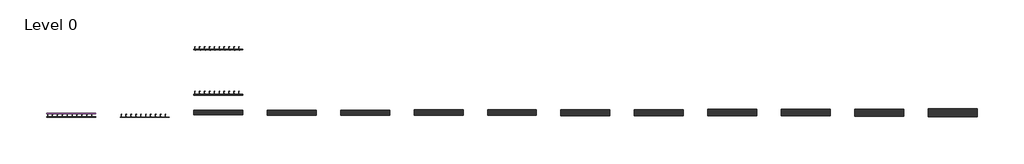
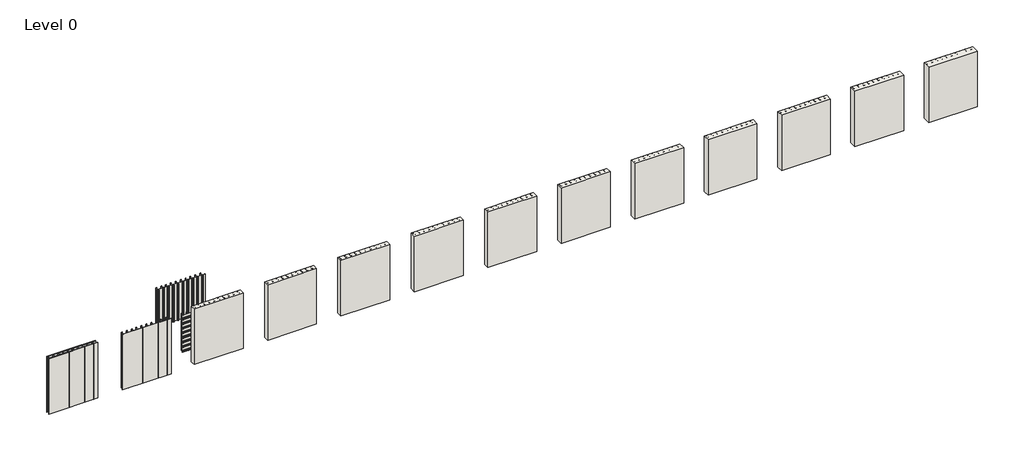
# One storey, incomplete: 17 fasteners, 15 walls, 4 plates.
"""IFC4 building model written with IfcOpenShell, lengths in millimetres."""

from ifc_helpers import new_model, si_unit, origin, origin_with_axes, place, context, project, spatial, polyline, outline, extrude, transform, mapped, element, save
from components import fastener_f7e8d427, fastener_a8222be2, fastener_300b955e, fastener_bb8683ab, fastener_929703bf, fastener_0e16a299, fastener_dfe876d4, metal_stud_substrate_e28d9b51, metal_stud_substrate_c954c151, system_panel_glazed_ae204111

model = new_model("IFC4")

# Units and contexts
model_context = context("Model", 3, world=origin())
ifc_project = project(units=[si_unit("LENGTHUNIT", "METRE", prefix="MILLI")], contexts=[model_context])

# Site, building, storey
site = spatial("IfcSite", under=ifc_project)
building = spatial("IfcBuilding", under=site)
storey = spatial("IfcBuildingStorey", under=building, Name="Level 0", Elevation=0.0)

# Fasteners
placement = place(None, origin())
fastener_shape = fastener_f7e8d427(model_context)
fastener_2_shape = fastener_a8222be2(model_context)
fastener_3_shape = fastener_300b955e(model_context)
element("IfcFastener", 1, ObjectType="Structural-Supporting-Components_Advanced-Architectural-Products_SMARTci_(On Closed Framing) : SMARTci (On Closed Framing) 1.5\"", at=placement, inside=storey, context=model_context, shape_type="MappedRepresentation", body=[
    mapped(fastener_shape, transform((-9509.3679784, 8221.4086599, 0.0), x_axis=(1.0, 0.0, 0.0), y_axis=(0.0, 1.0, 0.0), z_axis=(0.0, 0.0, 1.0))),
    mapped(fastener_2_shape, transform((-9509.3679784, 8221.4086599, 0.0), x_axis=(1.0, 0.0, 0.0), y_axis=(0.0, 1.0, 0.0), z_axis=(0.0, 0.0, 1.0))),
    mapped(fastener_3_shape, transform((-9509.3679784, 8221.4086599, 0.0), x_axis=(1.0, 0.0, 0.0), y_axis=(0.0, 1.0, 0.0), z_axis=(0.0, 0.0, 1.0))),
])
fastener_4_shape = fastener_bb8683ab(model_context)
fastener_5_shape = fastener_929703bf(model_context)
fastener_6_shape = fastener_0e16a299(model_context)
fastener_7_shape = fastener_dfe876d4(model_context)
element("IfcFastener", 2, ObjectType="Structural-Supporting-Components_Advanced-Architectural-Products_SMARTci_(On Closed Framing) : SMARTci (On Closed Framing) 1.5\"", at=placement, inside=storey, context=model_context, shape_type="MappedRepresentation", body=[
    mapped(fastener_4_shape, transform((-9509.3679784, 10532.8086599, 0.0), x_axis=(1.0, 0.0, 0.0), y_axis=(0.0, 1.0, 0.0), z_axis=(0.0, 0.0, 1.0))),
    mapped(fastener_5_shape, transform((-9509.3679784, 10532.8086599, 0.0), x_axis=(1.0, 0.0, 0.0), y_axis=(0.0, 1.0, 0.0), z_axis=(0.0, 0.0, 1.0))),
    mapped(fastener_6_shape, transform((-9509.3679784, 10532.8086599, 0.0), x_axis=(1.0, 0.0, 0.0), y_axis=(0.0, 1.0, 0.0), z_axis=(0.0, 0.0, 1.0))),
    mapped(fastener_7_shape, transform((-9509.3679784, 10532.8086599, 0.0), x_axis=(1.0, 0.0, 0.0), y_axis=(0.0, 1.0, 0.0), z_axis=(0.0, 0.0, 1.0))),
])
metal_stud_substrate_shape = metal_stud_substrate_e28d9b51(model_context)
element("IfcFastener", 3, ObjectType="Structural-Supporting-Components_Advanced-Architectural-Products_Metal-Stud-Substrate : Metal Stud Substrate", at=placement, inside=storey, context=model_context, shape_type="MappedRepresentation", body=[
    mapped(metal_stud_substrate_shape, transform((-9509.3679784, 7372.8836599, 0.0), x_axis=(1.0, 0.0, 0.0), y_axis=(0.0, 1.0, 0.0), z_axis=(0.0, 0.0, 1.0))),
])
element("IfcFastener", 4, ObjectType="Structural-Supporting-Components_Advanced-Architectural-Products_Metal-Stud-Substrate : Metal Stud Substrate", at=placement, inside=storey, context=model_context, shape_type="MappedRepresentation", body=[
    mapped(metal_stud_substrate_shape, transform((-5699.3679784, 7379.2336599, 0.0), x_axis=(1.0, 0.0, 0.0), y_axis=(0.0, 1.0, 0.0), z_axis=(0.0, 0.0, 1.0))),
])
element("IfcFastener", 5, ObjectType="Structural-Supporting-Components_Advanced-Architectural-Products_Metal-Stud-Substrate : Metal Stud Substrate", at=placement, inside=storey, context=model_context, shape_type="MappedRepresentation", body=[
    mapped(metal_stud_substrate_shape, transform((-1889.3679784, 7385.5836599, 0.0), x_axis=(1.0, 0.0, 0.0), y_axis=(0.0, 1.0, 0.0), z_axis=(0.0, 0.0, 1.0))),
])
element("IfcFastener", 6, ObjectType="Structural-Supporting-Components_Advanced-Architectural-Products_Metal-Stud-Substrate : Metal Stud Substrate", at=placement, inside=storey, context=model_context, shape_type="MappedRepresentation", body=[
    mapped(metal_stud_substrate_shape, transform((1920.6320216, 7391.9336599, 0.0), x_axis=(1.0, 0.0, 0.0), y_axis=(0.0, 1.0, 0.0), z_axis=(0.0, 0.0, 1.0))),
])
element("IfcFastener", 7, ObjectType="Structural-Supporting-Components_Advanced-Architectural-Products_Metal-Stud-Substrate : Metal Stud Substrate", at=placement, inside=storey, context=model_context, shape_type="MappedRepresentation", body=[
    mapped(metal_stud_substrate_shape, transform((5730.6320216, 7398.2836599, 0.0), x_axis=(1.0, 0.0, 0.0), y_axis=(0.0, 1.0, 0.0), z_axis=(0.0, 0.0, 1.0))),
])
element("IfcFastener", 8, ObjectType="Structural-Supporting-Components_Advanced-Architectural-Products_Metal-Stud-Substrate : Metal Stud Substrate", at=placement, inside=storey, context=model_context, shape_type="MappedRepresentation", body=[
    mapped(metal_stud_substrate_shape, transform((9540.6320216, 7404.6336599, 0.0), x_axis=(1.0, 0.0, 0.0), y_axis=(0.0, 1.0, 0.0), z_axis=(0.0, 0.0, 1.0))),
])
element("IfcFastener", 9, ObjectType="Structural-Supporting-Components_Advanced-Architectural-Products_Metal-Stud-Substrate : Metal Stud Substrate", at=placement, inside=storey, context=model_context, shape_type="MappedRepresentation", body=[
    mapped(metal_stud_substrate_shape, transform((13350.6320216, 7410.9836599, 0.0), x_axis=(1.0, 0.0, 0.0), y_axis=(0.0, 1.0, 0.0), z_axis=(0.0, 0.0, 1.0))),
])
element("IfcFastener", 10, ObjectType="Structural-Supporting-Components_Advanced-Architectural-Products_Metal-Stud-Substrate : Metal Stud Substrate", at=placement, inside=storey, context=model_context, shape_type="MappedRepresentation", body=[
    mapped(metal_stud_substrate_shape, transform((17160.6320216, 7417.3336599, 0.0), x_axis=(1.0, 0.0, 0.0), y_axis=(0.0, 1.0, 0.0), z_axis=(0.0, 0.0, 1.0))),
])
element("IfcFastener", 11, ObjectType="Structural-Supporting-Components_Advanced-Architectural-Products_Metal-Stud-Substrate : Metal Stud Substrate", at=placement, inside=storey, context=model_context, shape_type="MappedRepresentation", body=[
    mapped(metal_stud_substrate_shape, transform((20970.6320216, 7423.6836599, 0.0), x_axis=(1.0, 0.0, 0.0), y_axis=(0.0, 1.0, 0.0), z_axis=(0.0, 0.0, 1.0))),
])
element("IfcFastener", 12, ObjectType="Structural-Supporting-Components_Advanced-Architectural-Products_Metal-Stud-Substrate : Metal Stud Substrate", at=placement, inside=storey, context=model_context, shape_type="MappedRepresentation", body=[
    mapped(metal_stud_substrate_shape, transform((24780.6320216, 7430.0336599, 0.0), x_axis=(1.0, 0.0, 0.0), y_axis=(0.0, 1.0, 0.0), z_axis=(0.0, 0.0, 1.0))),
])
element("IfcFastener", 13, ObjectType="Structural-Supporting-Components_Advanced-Architectural-Products_Metal-Stud-Substrate : Metal Stud Substrate", at=placement, inside=storey, context=model_context, shape_type="MappedRepresentation", body=[
    mapped(metal_stud_substrate_shape, transform((28590.6320216, 7455.4336599, 0.0), x_axis=(1.0, 0.0, 0.0), y_axis=(0.0, 1.0, 0.0), z_axis=(0.0, 0.0, 1.0))),
])
element("IfcFastener", 14, ObjectType="Structural-Supporting-Components_Advanced-Architectural-Products_Metal-Stud-Substrate : Metal Stud Substrate", at=placement, inside=storey, context=model_context, shape_type="MappedRepresentation", body=[
    mapped(metal_stud_substrate_shape, transform((-13319.3679784, 7196.0836599, 0.0), x_axis=(1.0, 0.0, 0.0), y_axis=(0.0, 1.0, 0.0), z_axis=(0.0, 0.0, 1.0))),
])
element("IfcFastener", 15, ObjectType="Structural-Supporting-Components_Advanced-Architectural-Products_Metal-Stud-Substrate : Metal Stud Substrate", at=placement, inside=storey, context=model_context, shape_type="MappedRepresentation", body=[
    mapped(metal_stud_substrate_shape, transform((-17129.2493423, 7209.5836599, 0.0), x_axis=(1.0, 0.0, 0.0), y_axis=(0.0, 1.0, 0.0), z_axis=(0.0, 0.0, 1.0))),
])
metal_stud_substrate_2_shape = metal_stud_substrate_c954c151(model_context)
element("IfcFastener", 16, ObjectType="Structural-Supporting-Components_Advanced-Architectural-Products_Metal-Stud-Substrate : Metal Stud Substrate", at=placement, inside=storey, context=model_context, shape_type="MappedRepresentation", body=[
    mapped(metal_stud_substrate_2_shape, transform((-9509.3679784, 8389.6836599, 0.0), x_axis=(1.0, 0.0, 0.0), y_axis=(0.0, 1.0, 0.0), z_axis=(0.0, 0.0, 1.0))),
])
element("IfcFastener", 17, ObjectType="Structural-Supporting-Components_Advanced-Architectural-Products_Metal-Stud-Substrate : Metal Stud Substrate", at=placement, inside=storey, context=model_context, shape_type="MappedRepresentation", body=[
    mapped(metal_stud_substrate_2_shape, transform((-9509.3679784, 10701.0836599, 0.0), x_axis=(1.0, 0.0, 0.0), y_axis=(0.0, 1.0, 0.0), z_axis=(0.0, 0.0, 1.0))),
])

# Plates
system_panel_glazed_shape = system_panel_glazed_ae204111(model_context)
element("IfcPlate", 18, ObjectType="System Panel : Glazed", at=placement, inside=storey, context=model_context, shape_type="MappedRepresentation", body=[
    mapped(system_panel_glazed_shape, transform((-16494.2493421, 7259.0836599, 0.0), x_axis=(1.0, 0.0, 0.0), y_axis=(0.0, 1.0, 0.0), z_axis=(0.0, 0.0, 1.0))),
])
element("IfcPlate", 19, ObjectType="System Panel : Glazed", at=placement, inside=storey, context=model_context, shape_type="MappedRepresentation", body=[
    mapped(system_panel_glazed_shape, transform((-15224.2493421, 7259.0836599, 0.0), x_axis=(1.0, 0.0, 0.0), y_axis=(0.0, 1.0, 0.0), z_axis=(0.0, 0.0, 1.0))),
])
element("IfcPlate", 20, ObjectType="System Panel : Glazed", at=placement, inside=storey, context=model_context, shape_type="MappedRepresentation", body=[
    mapped(system_panel_glazed_shape, transform((-16494.2493421, 7259.0836599, 1524.0), x_axis=(1.0, 0.0, 0.0), y_axis=(0.0, 1.0, 0.0), z_axis=(0.0, 0.0, 1.0))),
])
element("IfcPlate", 21, ObjectType="System Panel : Glazed", at=placement, inside=storey, context=model_context, shape_type="MappedRepresentation", body=[
    mapped(system_panel_glazed_shape, transform((-15224.2493421, 7259.0836599, 1524.0), x_axis=(1.0, 0.0, 0.0), y_axis=(0.0, 1.0, 0.0), z_axis=(0.0, 0.0, 1.0))),
])

# Walls
element("IfcWall", 22, ObjectType="AAP Basic Wall-Ext", at=placement, inside=storey, context=model_context, shape_type="SweptSolid", body=[
    extrude(outline(polyline([(-10779.3679784, 7027.8086599), (-13319.3679784, 7027.8086599), (-13319.3679784, 7043.6836599), (-10779.3679784, 7043.6836599), (-10779.3679784, 7027.8086599)])), origin_with_axes(), (0.0, 0.0, 1.0), 3048.0),
])
element("IfcWall", 23, ObjectType="AAP Basic Wall-Ext", at=placement, inside=storey, context=model_context, shape_type="SweptSolid", body=[
    extrude(outline(polyline([(-6969.3679784, 8221.4086599), (-9509.3679784, 8221.4086599), (-9509.3679784, 8237.2836599), (-6969.3679784, 8237.2836599), (-6969.3679784, 8221.4086599)])), origin_with_axes(), (0.0, 0.0, 1.0), 2032.0),
])
element("IfcWall", 24, ObjectType="AAP Basic Wall-Ext", at=placement, inside=storey, context=model_context, shape_type="SweptSolid", body=[
    extrude(outline(polyline([(-6969.3679784, 10532.8086599), (-9509.3679784, 10532.8086599), (-9509.3679784, 10548.6836599), (-6969.3679784, 10548.6836599), (-6969.3679784, 10532.8086599)])), origin_with_axes(), (0.0, 0.0, 1.0), 2032.0),
])
element("IfcWall", 25, ObjectType="AAP Basic Wall-Ext", at=placement, inside=storey, context=model_context, shape_type="SweptSolid", body=[
    extrude(outline(polyline([(-14589.2493423, 7041.3086599), (-17129.2493423, 7041.3086599), (-17129.2493423, 7057.1836599), (-14589.2493423, 7057.1836599), (-14589.2493423, 7041.3086599)])), origin_with_axes(), (0.0, 0.0, 1.0), 3048.0),
])
element("IfcWall", 26, ObjectType="AAP Wall-Ext_1.5\" Fiberglass Batt, Air", at=placement, inside=storey, context=model_context, shape_type="SweptSolid", body=[
    extrude(outline(polyline([(-6969.3679784, 7154.0086599), (-9509.3679784, 7154.0086599), (-9509.3679784, 7398.2836599), (-6969.3679784, 7398.2836599), (-6969.3679784, 7154.0086599)])), origin_with_axes(), (0.0, 0.0, 1.0), 3048.0),
])
element("IfcWall", 27, ObjectType="AAP Wall-Ext_2.0\" Fiberglass Batt, Air", at=placement, inside=storey, context=model_context, shape_type="SweptSolid", body=[
    extrude(outline(polyline([(-3159.3679784, 7147.6586599), (-5699.3679784, 7147.6586599), (-5699.3679784, 7404.6336599), (-3159.3679784, 7404.6336599), (-3159.3679784, 7147.6586599)])), origin_with_axes(), (0.0, 0.0, 1.0), 3048.0),
])
element("IfcWall", 28, ObjectType="AAP Wall-Ext_2.5\" Fiberglass Batt, Air", at=placement, inside=storey, context=model_context, shape_type="SweptSolid", body=[
    extrude(outline(polyline([(650.6320216, 7141.3086599), (-1889.3679784, 7141.3086599), (-1889.3679784, 7410.9836599), (650.6320216, 7410.9836599), (650.6320216, 7141.3086599)])), origin_with_axes(), (0.0, 0.0, 1.0), 3048.0),
])
element("IfcWall", 29, ObjectType="AAP Wall-Ext_3.0\" Fiberglass Batt, Air", at=placement, inside=storey, context=model_context, shape_type="SweptSolid", body=[
    extrude(outline(polyline([(4460.6320216, 7134.9586599), (1920.6320216, 7134.9586599), (1920.6320216, 7417.3336599), (4460.6320216, 7417.3336599), (4460.6320216, 7134.9586599)])), origin_with_axes(), (0.0, 0.0, 1.0), 3048.0),
])
element("IfcWall", 30, ObjectType="AAP Wall-Ext_3.5\" Fiberglass Batt, Air", at=placement, inside=storey, context=model_context, shape_type="SweptSolid", body=[
    extrude(outline(polyline([(8270.6320216, 7128.6086599), (5730.6320216, 7128.6086599), (5730.6320216, 7423.6836599), (8270.6320216, 7423.6836599), (8270.6320216, 7128.6086599)])), origin_with_axes(), (0.0, 0.0, 1.0), 3048.0),
])
element("IfcWall", 31, ObjectType="AAP Wall-Ext_4.0\" Fiberglass Batt, Air", at=placement, inside=storey, context=model_context, shape_type="SweptSolid", body=[
    extrude(outline(polyline([(12080.6320216, 7122.2586599), (9540.6320216, 7122.2586599), (9540.6320216, 7430.0336599), (12080.6320216, 7430.0336599), (12080.6320216, 7122.2586599)])), origin_with_axes(), (0.0, 0.0, 1.0), 3048.0),
])
element("IfcWall", 32, ObjectType="AAP Wall-Ext_4.5\" Fiberglass Batt, Air", at=placement, inside=storey, context=model_context, shape_type="SweptSolid", body=[
    extrude(outline(polyline([(15890.6320216, 7115.9086599), (13350.6320216, 7115.9086599), (13350.6320216, 7436.3836599), (15890.6320216, 7436.3836599), (15890.6320216, 7115.9086599)])), origin_with_axes(), (0.0, 0.0, 1.0), 3048.0),
])
element("IfcWall", 33, ObjectType="AAP Wall-Ext_5.0\" Fiberglass Batt, Air", at=placement, inside=storey, context=model_context, shape_type="SweptSolid", body=[
    extrude(outline(polyline([(19700.6320216, 7109.5586599), (17160.6320216, 7109.5586599), (17160.6320216, 7442.7336599), (19700.6320216, 7442.7336599), (19700.6320216, 7109.5586599)])), origin_with_axes(), (0.0, 0.0, 1.0), 3048.0),
])
element("IfcWall", 34, ObjectType="AAP Wall-Ext_5.5\" Fiberglass Batt, Air", at=placement, inside=storey, context=model_context, shape_type="SweptSolid", body=[
    extrude(outline(polyline([(23510.6320216, 7103.2086599), (20970.6320216, 7103.2086599), (20970.6320216, 7449.0836599), (23510.6320216, 7449.0836599), (23510.6320216, 7103.2086599)])), origin_with_axes(), (0.0, 0.0, 1.0), 3048.0),
])
element("IfcWall", 35, ObjectType="AAP Wall-Ext_6.0\" Fiberglass Batt, Air", at=placement, inside=storey, context=model_context, shape_type="SweptSolid", body=[
    extrude(outline(polyline([(27320.6320216, 7096.8586599), (24780.6320216, 7096.8586599), (24780.6320216, 7455.4336599), (27320.6320216, 7455.4336599), (27320.6320216, 7096.8586599)])), origin_with_axes(), (0.0, 0.0, 1.0), 3048.0),
])
element("IfcWall", 36, ObjectType="AAP Wall-Ext_8.0\" Fiberglass Batt, Air", at=placement, inside=storey, context=model_context, shape_type="SweptSolid", body=[
    extrude(outline(polyline([(31130.6320216, 7071.4586599), (28590.6320216, 7071.4586599), (28590.6320216, 7480.8336599), (31130.6320216, 7480.8336599), (31130.6320216, 7071.4586599)])), origin_with_axes(), (0.0, 0.0, 1.0), 3048.0),
])

save(model, "model.ifc")
